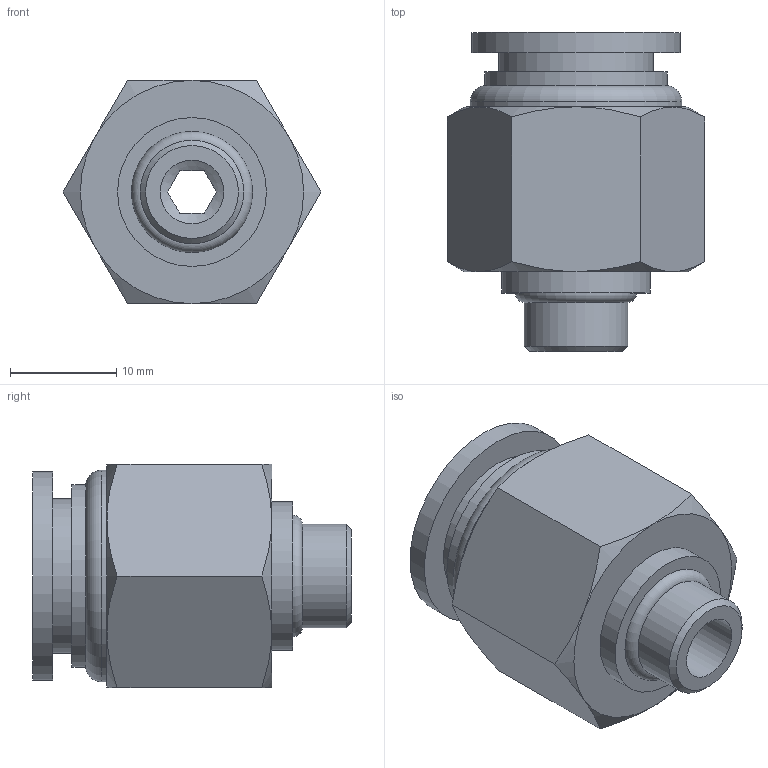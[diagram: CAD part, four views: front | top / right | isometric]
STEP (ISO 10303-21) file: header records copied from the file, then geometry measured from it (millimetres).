
FILE_DESCRIPTION(/* description */ (''),/* implementation_level */ '2;1');
FILE_NAME(/* name */ 'S:\_Tecnico\ArchivioUT\_Disegni3D ingombri\DISEGNI 3D per ingombri\RP\RP 51\RP511812.stp',/* time_stamp */ '2019-07-24T15:56:12+02:00',/* author */ ('ufficiotecnico3'),/* organization */ (''),/* preprocessor_version */ 'ST-DEVELOPER v18',/* originating_system */ 'Autodesk Inventor 2020',/* authorisation */ '');
FILE_SCHEMA (('AUTOMOTIVE_DESIGN { 1 0 10303 214 3 1 1 }'));
Length unit declared in the file: millimetre
Products named in the file (1): RP511812
Bounding box: 24.25 x 30 x 21 mm (x, y, z)
Volume: 5772.1 mm3; surface area: 3628.1 mm2
Topology: 1 solids, 1 shells, 45 faces, 112 edges, 75 vertices
Faces by surface type: plane 20, cone 15, cylinder 8, torus 2
Full cylindrical faces by diameter (mm): 6 x1, 9.728 x1, 12 x1, 14 x1, 14.5 x1, 17.2 x1, 19.6 x1, 19.9 x1
Entity records: 1370 total; most frequent: CARTESIAN_POINT 305, ORIENTED_EDGE 224, DIRECTION 215, EDGE_CURVE 112, AXIS2_PLACEMENT_3D 93, VERTEX_POINT 75, EDGE_LOOP 53, CIRCLE 47
